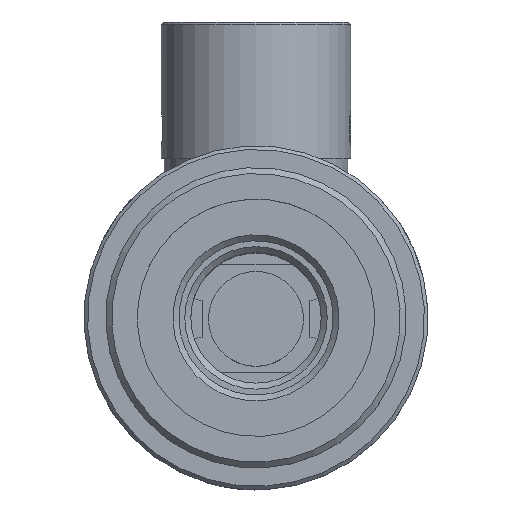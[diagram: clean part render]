
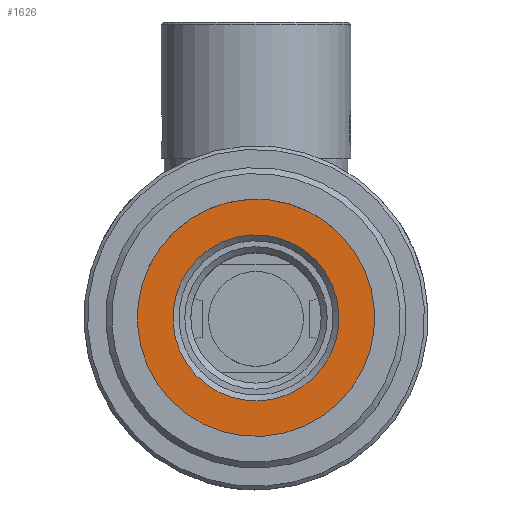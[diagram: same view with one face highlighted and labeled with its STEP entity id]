
A CAD part, top view. The second image highlights one B-rep face of the part: STEP entity #1626.
In plain terms, the highlighted planar face has unit normal (0, 0, 1).
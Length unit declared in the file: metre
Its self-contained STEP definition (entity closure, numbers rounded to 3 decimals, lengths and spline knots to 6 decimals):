
#1626=ADVANCED_FACE('NONE',(#4218,#4219),#4220,.F.);
#2050=EDGE_CURVE('NONE',#4927,#4927,#4928,.T.);
#2716=EDGE_CURVE('NONE',#5875,#5875,#5876,.T.);
#4218=FACE_OUTER_BOUND('',#7648,.T.);
#4219=FACE_BOUND('',#7649,.T.);
#4220=PLANE('',#7650);
#4927=VERTEX_POINT('',#8656);
#4928=CIRCLE('',#8657,0.007);
#5875=VERTEX_POINT('',#10321);
#5876=CIRCLE('',#10322,0.01);
#7648=EDGE_LOOP('',(#13915));
#7649=EDGE_LOOP('',(#13916));
#7650=AXIS2_PLACEMENT_3D('',#13917,#13918,#13919);
#8656=CARTESIAN_POINT('',(-0.00695,0.000785,0.05119));
#8657=AXIS2_PLACEMENT_3D('',#15066,#15067,#15068);
#10321=CARTESIAN_POINT('',(-0.009931,0.001121,0.05119));
#10322=AXIS2_PLACEMENT_3D('',#15713,#15714,#15715);
#13915=ORIENTED_EDGE('',*,*,#2716,.F.);
#13916=ORIENTED_EDGE('',*,*,#2050,.T.);
#13917=CARTESIAN_POINT('',(0.001127,0.009937,0.05119));
#13918=DIRECTION('',(0.,0.,-1.0));
#13919=DIRECTION('',(0.0,-1.0,0.));
#15066=CARTESIAN_POINT('',(0.000006,0.,0.05119));
#15067=DIRECTION('',(0.,0.,-1.0));
#15068=DIRECTION('',(-0.994,0.112,0.));
#15713=CARTESIAN_POINT('',(0.000006,0.,0.05119));
#15714=DIRECTION('',(0.,0.,-1.0));
#15715=DIRECTION('',(-0.994,0.112,0.));
